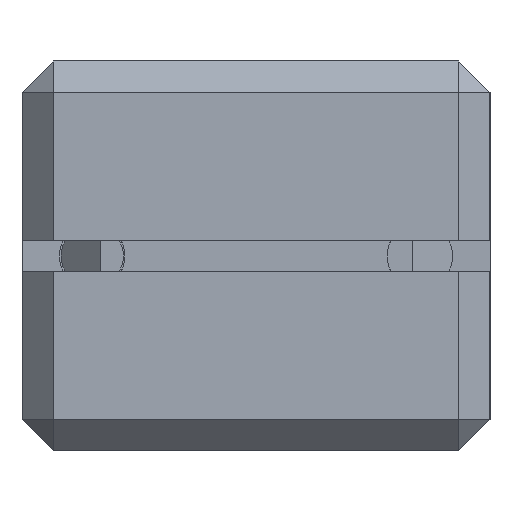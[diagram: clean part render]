
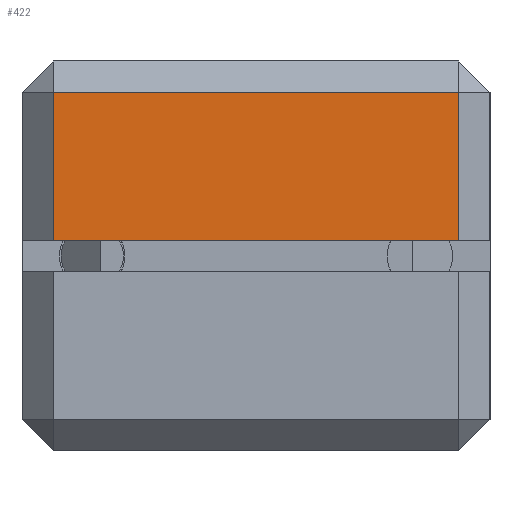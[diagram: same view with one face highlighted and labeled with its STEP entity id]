
A CAD part, front view. The second image highlights one B-rep face of the part: STEP entity #422.
In plain terms, the highlighted planar face has unit normal (0, -1, 0).
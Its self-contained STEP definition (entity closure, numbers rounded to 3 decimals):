
#6 = CARTESIAN_POINT ( 'NONE',  ( 1., -17.5, -13. ) ) ;
#64 = CARTESIAN_POINT ( 'NONE',  ( 10.5, -17.5, -13. ) ) ;
#82 = DIRECTION ( 'NONE',  ( 0., 0., 1. ) ) ;
#340 = FACE_OUTER_BOUND ( 'NONE', #2126, .T. ) ;
#422 = ADVANCED_FACE ( 'NONE', ( #340 ), #718, .F. ) ;
#612 = VERTEX_POINT ( 'NONE', #2448 ) ;
#624 = VERTEX_POINT ( 'NONE', #2392 ) ;
#718 = PLANE ( 'NONE',  #1517 ) ;
#774 = VERTEX_POINT ( 'NONE', #64 ) ;
#826 = VERTEX_POINT ( 'NONE', #2293 ) ;
#835 = DIRECTION ( 'NONE',  ( -1., 0., 0. ) ) ;
#839 = DIRECTION ( 'NONE',  ( 0., 1., 0. ) ) ;
#904 = CARTESIAN_POINT ( 'NONE',  ( 1., -17.5, 15. ) ) ;
#921 = LINE ( 'NONE', #2368, #1107 ) ;
#926 = VECTOR ( 'NONE', #3093, 1000. ) ;
#1040 = LINE ( 'NONE', #2432, #1041 ) ;
#1041 = VECTOR ( 'NONE', #82, 1000. ) ;
#1085 = LINE ( 'NONE', #6, #1096 ) ;
#1093 = LINE ( 'NONE', #2600, #926 ) ;
#1096 = VECTOR ( 'NONE', #2951, 1000. ) ;
#1107 = VECTOR ( 'NONE', #3071, 1000. ) ;
#1468 = EDGE_CURVE ( 'NONE', #624, #774, #1085, .T. ) ;
#1471 = EDGE_CURVE ( 'NONE', #612, #826, #921, .T. ) ;
#1503 = EDGE_CURVE ( 'NONE', #826, #624, #1093, .T. ) ;
#1510 = EDGE_CURVE ( 'NONE', #774, #612, #1040, .T. ) ;
#1517 = AXIS2_PLACEMENT_3D ( 'NONE', #904, #839, #835 ) ;
#1776 = ORIENTED_EDGE ( 'NONE', *, *, #1510, .T. ) ;
#1797 = ORIENTED_EDGE ( 'NONE', *, *, #1471, .T. ) ;
#1799 = ORIENTED_EDGE ( 'NONE', *, *, #1503, .T. ) ;
#1816 = ORIENTED_EDGE ( 'NONE', *, *, #1468, .T. ) ;
#2126 = EDGE_LOOP ( 'NONE', ( #1799, #1816, #1776, #1797 ) ) ;
#2293 = CARTESIAN_POINT ( 'NONE',  ( 1., -17.5, 13. ) ) ;
#2368 = CARTESIAN_POINT ( 'NONE',  ( 1., -17.5, 13. ) ) ;
#2392 = CARTESIAN_POINT ( 'NONE',  ( 1., -17.5, -13. ) ) ;
#2432 = CARTESIAN_POINT ( 'NONE',  ( 10.5, -17.5, 15. ) ) ;
#2448 = CARTESIAN_POINT ( 'NONE',  ( 10.5, -17.5, 13. ) ) ;
#2600 = CARTESIAN_POINT ( 'NONE',  ( 1., -17.5, 15. ) ) ;
#2951 = DIRECTION ( 'NONE',  ( 1., 0., 0. ) ) ;
#3071 = DIRECTION ( 'NONE',  ( -1., 0., 0. ) ) ;
#3093 = DIRECTION ( 'NONE',  ( 0., 0., -1. ) ) ;
